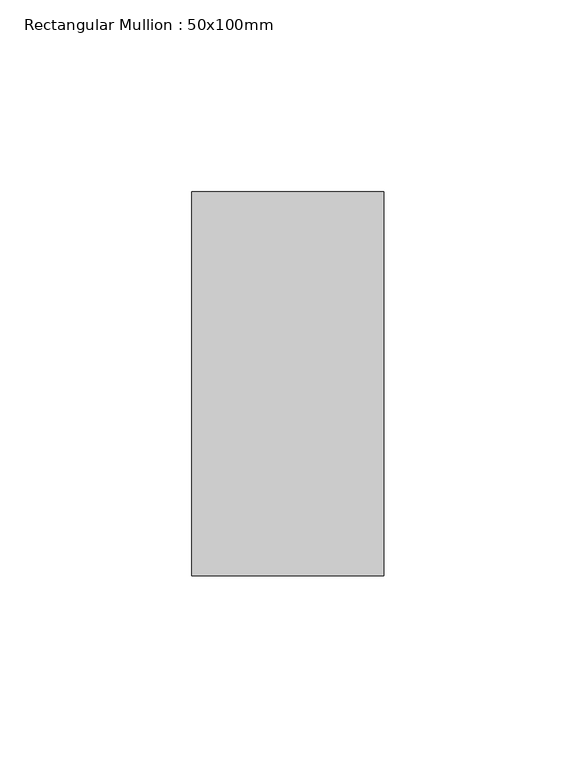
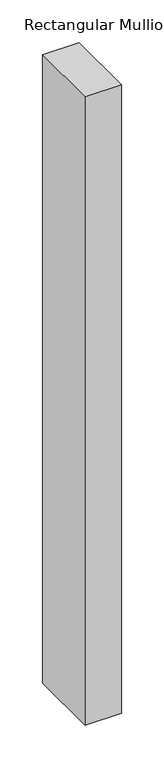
"""IFC4 building model written with IfcOpenShell, lengths in millimetres: member geometry, Rectangular Mullion : 50x100mm."""

import ifcopenshell
import ifcopenshell.guid

model = None  # the IFC model being written
_history = None  # IfcOwnerHistory: only IFC2X3 demands one
_inside = {}  # id of a spatial element -> (the spatial element, [elements in it])
_under = {}  # id of a project, library or spatial element -> (it, [spatial elements below it])
_declared = {}  # id of a project -> (the project, [libraries it declares])
_typed = {}  # id of a type object -> (the type object, [elements of that type])
_made_of = {}  # id of a material, layer set ... -> (it, [elements and type objects made of it])


def new_model(schema):
    """Start an empty IFC model of exactly this schema.

    Asked for "IFC4X3", IfcOpenShell would pick the latest addendum, in which some entities
    have other attributes; the version numbers below select the first issue.
    IFC2X3 requires an IfcOwnerHistory on every rooted entity: one is made here for all.
    """
    global model, _history
    if schema == "IFC4X3":
        model = ifcopenshell.file(schema_version=(4, 3, 0, 0))
    else:
        model = ifcopenshell.file(schema=schema)
    _inside.clear()
    _under.clear()
    _declared.clear()
    _typed.clear()
    _made_of.clear()
    _history = None
    if model.schema == "IFC2X3":
        org = make("IfcOrganization", Name="unknown")
        user = make(
            "IfcPersonAndOrganization",
            ThePerson=make("IfcPerson", FamilyName="unknown"),
            TheOrganization=org,
        )
        app = make(
            "IfcApplication",
            ApplicationDeveloper=org,
            Version="unknown",
            ApplicationFullName="unknown",
            ApplicationIdentifier="unknown",
        )
        _history = make(
            "IfcOwnerHistory",
            OwningUser=user,
            OwningApplication=app,
            ChangeAction="ADDED",
            CreationDate=0,
        )
    return model


def make(cls, **values):
    """One entity of the class cls with the attributes given. An attribute that is None is left unset."""
    return model.create_entity(
        cls, **{name: value for name, value in values.items() if value is not None}
    )


def rooted(cls, **values):
    """An entity with a GlobalId (a new one), such as an element, a storey or a relation."""
    return make(cls, GlobalId=ifcopenshell.guid.new(), OwnerHistory=_history, **values)


def si_unit(unit_type, name, prefix=None):
    """IfcSIUnit, for example si_unit("LENGTHUNIT", "METRE", prefix="MILLI")."""
    return make("IfcSIUnit", UnitType=unit_type, Prefix=prefix, Name=name)


def assignment(units):
    """IfcUnitAssignment: the units of a project."""
    return None if units is None else make("IfcUnitAssignment", Units=units)


def point(xyz):
    """IfcCartesianPoint."""
    return None if xyz is None else make("IfcCartesianPoint", Coordinates=xyz)


def direction(xyz):
    """IfcDirection."""
    return None if xyz is None else make("IfcDirection", DirectionRatios=xyz)


def frame(location, z_axis=None, x_axis=None):
    """IfcAxis2Placement3D, a coordinate frame: its origin and axes. An axis left out is left unset."""
    return make(
        "IfcAxis2Placement3D",
        Location=point(location),
        Axis=direction(z_axis),
        RefDirection=direction(x_axis),
    )


def origin():
    """The frame at (0, 0, 0) with its axes left unset."""
    return frame((0.0, 0.0, 0.0))


def place(relative_to, where):
    """IfcLocalPlacement: puts the frame where relative to a parent placement (None: the world)."""
    return make(
        "IfcLocalPlacement", PlacementRelTo=relative_to, RelativePlacement=where
    )


def context(
    kind, dimensions, precision=None, world=None, true_north=None, identifier=None
):
    """IfcGeometricRepresentationContext, for example the 3D "Model" context."""
    return make(
        "IfcGeometricRepresentationContext",
        ContextIdentifier=identifier,
        ContextType=kind,
        CoordinateSpaceDimension=dimensions,
        Precision=precision,
        WorldCoordinateSystem=world,
        TrueNorth=true_north,
    )


def project(units=None, contexts=None):
    """IfcProject with its units and contexts."""
    return rooted(
        "IfcProject",
        Name="project",
        RepresentationContexts=contexts,
        UnitsInContext=assignment(units),
    )


def spatial(cls, under=None, at=None, **own):
    """A site, building, storey or space (cls), placed at a placement, below another one or the project."""
    s = rooted(cls, ObjectPlacement=at, **own)
    if under is not None:
        _under.setdefault(under.id(), (under, []))[1].append(s)
    return s


def polyline(points):
    """IfcPolyline through the points."""
    return make("IfcPolyline", Points=[point(p) for p in points])


def outline(outer, holes=None, kind="AREA"):
    """IfcArbitraryClosedProfileDef: a profile drawn as a closed curve; with holes, ...WithVoids."""
    if holes is None:
        return make("IfcArbitraryClosedProfileDef", ProfileType=kind, OuterCurve=outer)
    return make(
        "IfcArbitraryProfileDefWithVoids",
        ProfileType=kind,
        OuterCurve=outer,
        InnerCurves=holes,
    )


def extrude(swept, where, along, depth):
    """IfcExtrudedAreaSolid: the profile swept, set in the frame where, extruded along a direction by depth."""
    return make(
        "IfcExtrudedAreaSolid",
        SweptArea=swept,
        Position=where,
        ExtrudedDirection=direction(along),
        Depth=depth,
    )


def shape(context_of_items, identifier, shape_type, items):
    """IfcShapeRepresentation: the items that make up one representation, for example the "Body"."""
    return make(
        "IfcShapeRepresentation",
        ContextOfItems=context_of_items,
        RepresentationIdentifier=identifier,
        RepresentationType=shape_type,
        Items=items,
    )


def source(mapping_origin, context_of_items, identifier, shape_type, items):
    """IfcRepresentationMap: a shape defined once, which mapped items show again and again."""
    return make(
        "IfcRepresentationMap",
        MappingOrigin=mapping_origin,
        MappedRepresentation=shape(context_of_items, identifier, shape_type, items),
    )


def transform(
    local_origin,
    x_axis=None,
    y_axis=None,
    z_axis=None,
    scale=None,
    scale2=None,
    scale3=None,
    uniform=True,
):
    """IfcCartesianTransformationOperator3D, or its non-uniform kind. x_axis, y_axis, z_axis: its Axis1, 2, 3."""
    if uniform:
        return make(
            "IfcCartesianTransformationOperator3D",
            Axis1=direction(x_axis),
            Axis2=direction(y_axis),
            LocalOrigin=point(local_origin),
            Scale=scale,
            Axis3=direction(z_axis),
        )
    return make(
        "IfcCartesianTransformationOperator3DnonUniform",
        Axis1=direction(x_axis),
        Axis2=direction(y_axis),
        LocalOrigin=point(local_origin),
        Scale=scale,
        Axis3=direction(z_axis),
        Scale2=scale2,
        Scale3=scale3,
    )


def mapped(mapping_source, mapping_target):
    """IfcMappedItem: shows the shape of a source again, moved by a transform."""
    return make(
        "IfcMappedItem", MappingSource=mapping_source, MappingTarget=mapping_target
    )


def made_of(thing, what):
    """Note that an element or type object is made of a material, layer set ...; save() writes the relation."""
    if what is not None:
        _made_of.setdefault(what.id(), (what, []))[1].append(thing)
    return thing


def element(
    cls,
    number,
    at=None,
    inside=None,
    cuts=None,
    type_object=None,
    material=None,
    context=None,
    identifier="Body",
    shape_type=None,
    held_by="IfcProductDefinitionShape",
    body=None,
    shapes=None,
    **own,
):
    """One element of the class cls, such as IfcWall. Its Tag is "e" and its number.

    at: its placement. inside: the storey or other place that contains it. cuts: it is an
    opening in that element (IfcRelVoidsElement). A single representation is given by context,
    identifier, shape_type and body (its items); several are given by shapes. held_by: the class
    of the entity that holds the representations. save() writes the other relations.
    """
    e = rooted(cls, Tag="e%d" % number, ObjectPlacement=at, **own)
    if body is not None:
        shapes = [shape(context, identifier, shape_type, body)]
    if shapes is not None:
        e.Representation = make(held_by, Representations=shapes)
    if inside is not None:
        _inside.setdefault(inside.id(), (inside, []))[1].append(e)
    if cuts is not None:
        rooted(
            "IfcRelVoidsElement", RelatingBuildingElement=cuts, RelatedOpeningElement=e
        )
    if type_object is not None:
        _typed.setdefault(type_object.id(), (type_object, []))[1].append(e)
    return made_of(e, material)


def aggregate(whole, parts):
    """IfcRelAggregates: a whole, such as a stair, and the parts it consists of."""
    return rooted("IfcRelAggregates", RelatingObject=whole, RelatedObjects=parts)


def save(model, path):
    """Write the relations noted so far, then the file.

    IfcRelAggregates (storeys below a building ...), IfcRelContainedInSpatialStructure (elements
    in a storey), IfcRelDefinesByType, IfcRelAssociatesMaterial and IfcRelDeclares: one each for
    every whole, place, type object, material and project.
    """
    for whole, parts in _under.values():
        aggregate(whole, parts)
    for where, things in _inside.values():
        rooted(
            "IfcRelContainedInSpatialStructure",
            RelatedElements=things,
            RelatingStructure=where,
        )
    for kind, things in _typed.values():
        rooted("IfcRelDefinesByType", RelatedObjects=things, RelatingType=kind)
    for what, things in _made_of.values():
        rooted("IfcRelAssociatesMaterial", RelatedObjects=things, RelatingMaterial=what)
    for by, libraries in _declared.values():
        rooted("IfcRelDeclares", RelatingContext=by, RelatedDefinitions=libraries)
    model.write(path)


def rectangular_mullion_50x100mm_0e7e73a2(model_context):
    return source(origin(), model_context, "Body", "SweptSolid", [
        extrude(outline(polyline([(0.0, 50.0), (0.0, -50.0), (-50.0, -50.0), (-50.0, 50.0), (0.0, 50.0)])), frame((0.0, 0.0, -902.0), z_axis=(0.0, 0.0, 1.0), x_axis=(1.0, 0.0, 0.0)), (0.0, 0.0, 1.0), 902.0),
    ])


if __name__ == "__main__":
    model = new_model("IFC4")
    model_context = context("Model", 3, world=origin())
    ifc_project = project(units=[si_unit("LENGTHUNIT", "METRE", prefix="MILLI")], contexts=[model_context])
    site = spatial("IfcSite", under=ifc_project)
    building = spatial("IfcBuilding", under=site)
    placement = place(None, origin())
    rectangular_mullion_50x100mm_shape = rectangular_mullion_50x100mm_0e7e73a2(model_context)
    element("IfcMember", 1, ObjectType="Rectangular Mullion : 50x100mm", at=placement, inside=building, context=model_context, shape_type="MappedRepresentation", body=[
        mapped(rectangular_mullion_50x100mm_shape, transform((0.0, 0.0, 0.0), x_axis=(1.0, 0.0, 0.0), y_axis=(0.0, 1.0, 0.0), z_axis=(0.0, 0.0, 1.0))),
    ])
    save(model, "model.ifc")
